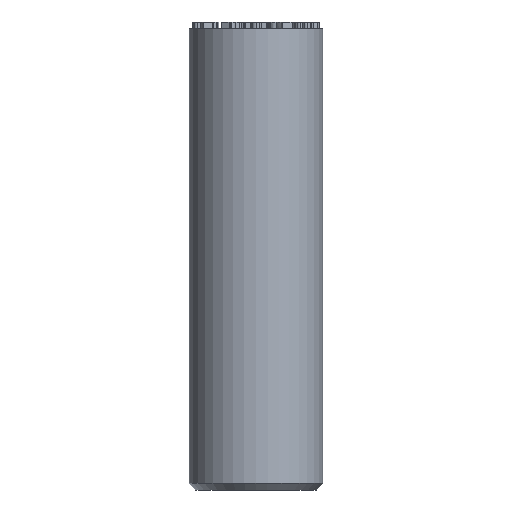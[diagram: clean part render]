
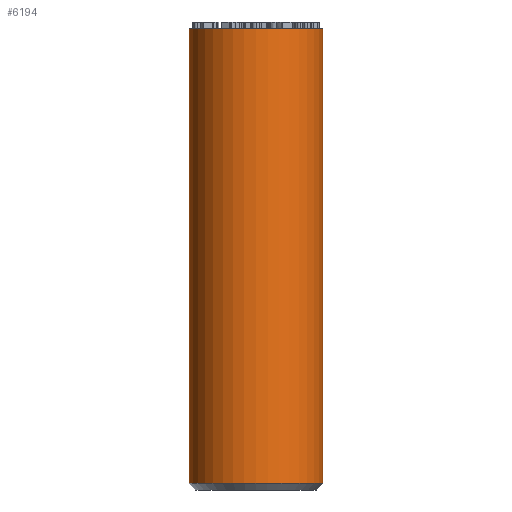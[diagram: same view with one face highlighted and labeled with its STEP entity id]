
A CAD part, front view. The second image highlights one B-rep face of the part: STEP entity #6194.
In plain terms, the highlighted cylindrical face has radius 2 mm (diameter 4 mm), a full revolution.
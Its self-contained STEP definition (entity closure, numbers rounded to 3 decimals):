
#741=CYLINDRICAL_SURFACE('',#6569,2.);
#886=FACE_OUTER_BOUND('',#1245,.T.);
#1245=EDGE_LOOP('',(#4239,#4240,#4241,#4242));
#1631=LINE('',#7451,#2110);
#2110=VECTOR('',#6712,2.);
#2588=CIRCLE('',#6565,2.);
#2591=CIRCLE('',#6570,2.);
#2603=VERTEX_POINT('',#7440);
#2606=VERTEX_POINT('',#7449);
#3255=EDGE_CURVE('',#2603,#2603,#2588,.T.);
#3259=EDGE_CURVE('',#2606,#2606,#2591,.T.);
#3260=EDGE_CURVE('',#2606,#2603,#1631,.T.);
#4239=ORIENTED_EDGE('',*,*,#3259,.F.);
#4240=ORIENTED_EDGE('',*,*,#3260,.T.);
#4241=ORIENTED_EDGE('',*,*,#3255,.F.);
#4242=ORIENTED_EDGE('',*,*,#3260,.F.);
#6194=ADVANCED_FACE('',(#886),#741,.T.);
#6565=AXIS2_PLACEMENT_3D('',#7441,#6699,#6700);
#6569=AXIS2_PLACEMENT_3D('',#7448,#6708,#6709);
#6570=AXIS2_PLACEMENT_3D('',#7450,#6710,#6711);
#6699=DIRECTION('center_axis',(0.,0.,-1.));
#6700=DIRECTION('ref_axis',(1.,0.,0.));
#6708=DIRECTION('center_axis',(0.,0.,1.));
#6709=DIRECTION('ref_axis',(1.,0.,0.));
#6710=DIRECTION('center_axis',(0.,0.,1.));
#6711=DIRECTION('ref_axis',(1.,0.,0.));
#6712=DIRECTION('',(0.,0.,-1.));
#7440=CARTESIAN_POINT('',(-2.,0.,0.2));
#7441=CARTESIAN_POINT('Origin',(0.,0.,0.2));
#7448=CARTESIAN_POINT('Origin',(0.,0.,0.));
#7449=CARTESIAN_POINT('',(-2.,0.,13.8));
#7450=CARTESIAN_POINT('Origin',(0.,0.,13.8));
#7451=CARTESIAN_POINT('',(-2.,0.,0.));
